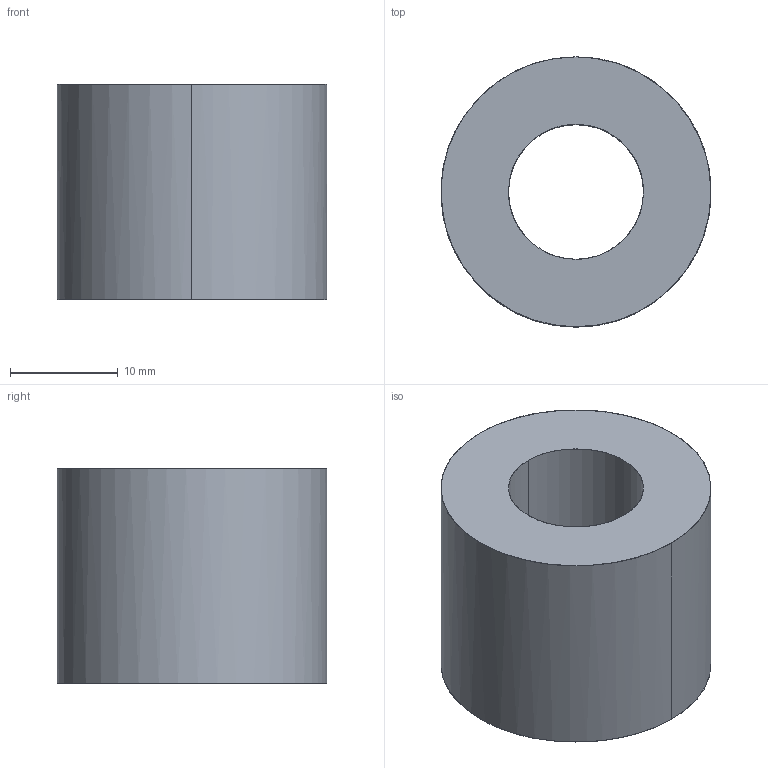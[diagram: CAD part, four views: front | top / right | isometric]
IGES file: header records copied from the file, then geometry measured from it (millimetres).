
Global section: file name: E:\UnigraphicsGraphicData\MISUMI_PRESS-PARTS\IGES\3d_swg25-20_00748_r00.igs; native system: NX V5.0; preprocessor: UGS NX IGES V5.0; author: MISUMI; date: 20110105.163256; units: millimetre
Bounding box: 25 x 25 x 20 mm (x, y, z)
Surface area: 3094.9 mm2 (no closed solid volume)
Topology: 0 solids, 0 shells, 6 faces, 48 edges, 48 vertices
Faces by surface type: bspline 6
